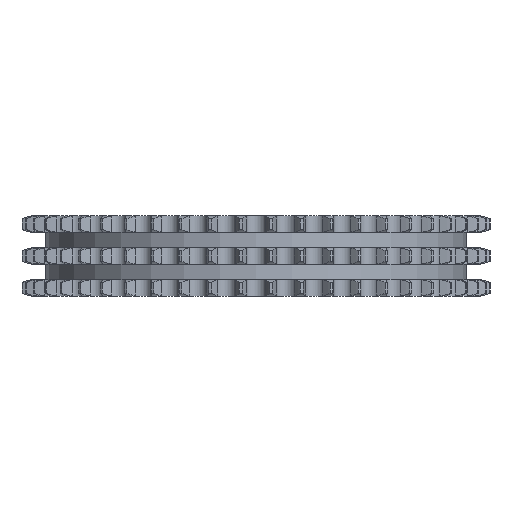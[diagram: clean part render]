
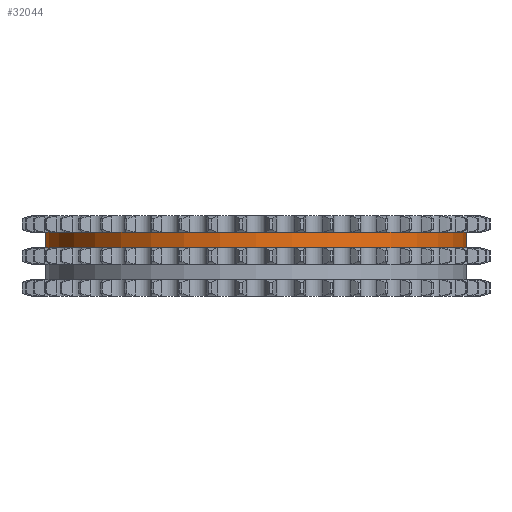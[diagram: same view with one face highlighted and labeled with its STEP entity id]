
A CAD part, left-side view. The second image highlights one B-rep face of the part: STEP entity #32044.
In plain terms, the highlighted cylindrical face has radius 66.818 mm (diameter 133.635 mm), a partial arc.
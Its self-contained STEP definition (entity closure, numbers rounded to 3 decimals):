
#6077=DIRECTION('',(0.,0.,-1.));
#6078=VECTOR('',#6077,4.85);
#6079=CARTESIAN_POINT('',(0.,66.818,7.5));
#6080=LINE('',#6079,#6078);
#6084=CARTESIAN_POINT('',(0.,0.,7.5));
#6085=DIRECTION('',(0.,0.,1.));
#6086=DIRECTION('',(0.,1.,0.));
#6087=AXIS2_PLACEMENT_3D('',#6084,#6085,#6086);
#6092=DIRECTION('',(0.,0.,-1.));
#6093=VECTOR('',#6092,4.85);
#6094=CARTESIAN_POINT('',(0.,-66.818,7.5));
#6095=LINE('',#6094,#6093);
#6099=CARTESIAN_POINT('',(0.,0.,2.65));
#6100=DIRECTION('',(0.,0.,1.));
#6101=DIRECTION('',(0.,1.,0.));
#6102=AXIS2_PLACEMENT_3D('',#6099,#6100,#6101);
#25814=CARTESIAN_POINT('',(0.,66.818,7.5));
#25815=CARTESIAN_POINT('',(0.,66.818,2.65));
#25816=VERTEX_POINT('',#25814);
#25817=VERTEX_POINT('',#25815);
#25818=CARTESIAN_POINT('',(0.,-66.818,7.5));
#25819=CARTESIAN_POINT('',(0.,-66.818,2.65));
#25820=VERTEX_POINT('',#25818);
#25821=VERTEX_POINT('',#25819);
#32032=CARTESIAN_POINT('',(0.,0.,8.25));
#32033=DIRECTION('',(0.,0.,-1.));
#32034=DIRECTION('',(0.,-1.,0.));
#32035=AXIS2_PLACEMENT_3D('',#32032,#32033,#32034);
#32036=CYLINDRICAL_SURFACE('',#32035,66.818);
#32037=ORIENTED_EDGE('',*,*,#32022,.F.);
#32038=ORIENTED_EDGE('',*,*,#32012,.T.);
#32039=ORIENTED_EDGE('',*,*,#32026,.T.);
#32041=ORIENTED_EDGE('',*,*,#32040,.F.);
#32042=EDGE_LOOP('',(#32037,#32038,#32039,#32041));
#32043=FACE_OUTER_BOUND('',#32042,.F.);
#32044=ADVANCED_FACE('',(#32043),#32036,.T.);
#6088=CIRCLE('',#6087,66.818);
#6103=CIRCLE('',#6102,66.818);
#32012=EDGE_CURVE('',#25816,#25820,#6088,.T.);
#32022=EDGE_CURVE('',#25816,#25817,#6080,.T.);
#32026=EDGE_CURVE('',#25820,#25821,#6095,.T.);
#32040=EDGE_CURVE('',#25817,#25821,#6103,.T.);
